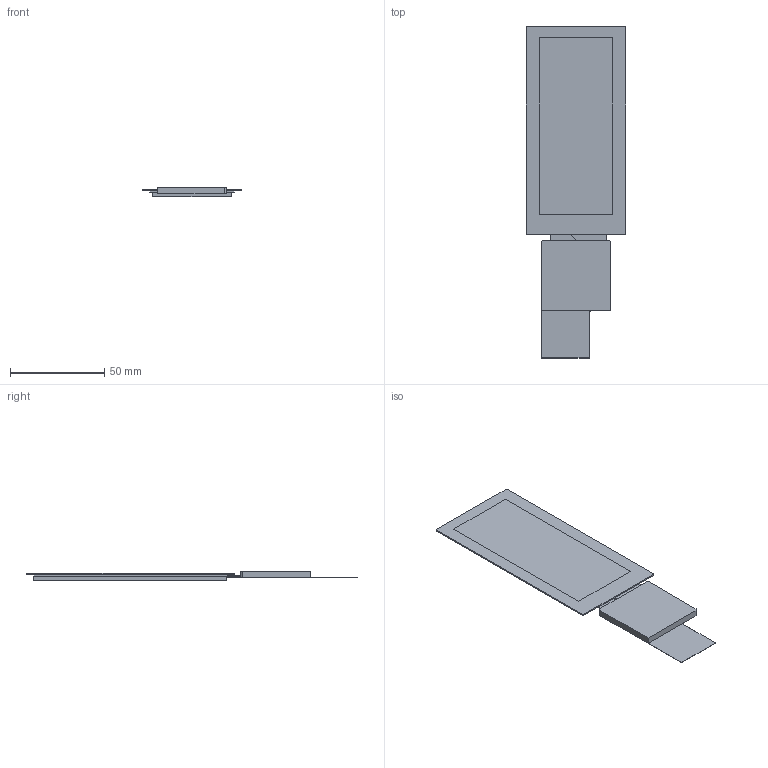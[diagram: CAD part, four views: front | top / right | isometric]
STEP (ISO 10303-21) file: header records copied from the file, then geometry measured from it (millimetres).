
FILE_DESCRIPTION((''),'2;1');
FILE_NAME('DMG40960F040_01W','2023-06-13T',('Administrator'),(''),'PRO/ENGINEER BY PARAMETRIC TECHNOLOGY CORPORATION, 2008380','PRO/ENGINEER BY PARAMETRIC TECHNOLOGY CORPORATION, 2008380','');
FILE_SCHEMA(('CONFIG_CONTROL_DESIGN'));
Length unit declared in the file: millimetre
Products named in the file (1): DMG40960F040_01W
Bounding box: 52.7 x 175.83 x 5.2 mm (x, y, z)
Volume: 23773 mm3; surface area: 18687.8 mm2
Topology: 1 solids, 1 shells, 82 faces, 413 edges, 433 vertices
Faces by surface type: plane 68, cylinder 14
Entity records: 4494 total; most frequent: CARTESIAN_POINT 652, DIRECTION 649, ORIENTED_EDGE 464, VECTOR 343, LINE 343, EDGE_CURVE 232, PRESENTATION_STYLE_ASSIGNMENT 216, STYLED_ITEM 216
